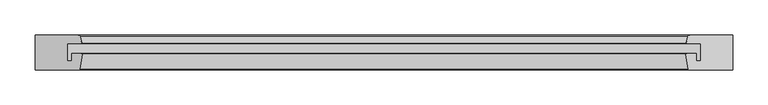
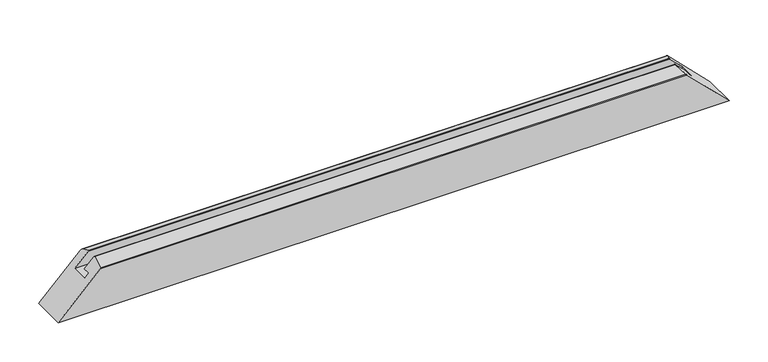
"""IFC4 building model written with IfcOpenShell, lengths in millimetres: proxy geometry, Weiku - Montante - Caixilho fixo 02.2.01.005 : Weiku - Montante - Caixilho fixo 02.2.01.005."""

from ifc_helpers import new_model, si_unit, frame, origin, place, context, project, spatial, ellipse_curve, source, transform, mapped, element, save
from ifc_brep_helpers import plane_surface, cylinder_surface, advanced_brep


def generic_models_721f8f45(model_context):
    return source(origin(), model_context, "Body", "AdvancedBrep", [
        advanced_brep(
        [(-430.618227, 38.5070552, 66.881773), (-433.1019557, 47.7764571, 64.3980443), (-435.9997332, 50.0, 61.5002668), (-497.5, 50.0, 0.0), (-497.5, 0.0, 0.0), (-435.0355572, 0.0, 62.4644428), (-434.0489094, 0.8371317, 63.4510906), (-430.4998537, 22.3371317, 67.0001463), (-431.4865015, 23.5, 66.0134985), (-445.5009154, 23.5, 51.9990846), (-445.5009154, 12.5, 51.9990846), (-451.5, 12.5, 46.0), (-451.5, 37.5, 46.0), (-431.3909676, 37.5, 66.1090324), (433.1019557, 47.7764571, 64.3980443), (430.618227, 38.5070552, 66.881773), (431.3909676, 37.5, 66.1090324), (451.5, 37.5, 46.0), (451.5, 12.5, 46.0), (445.5009154, 12.5, 51.9990846), (445.5009154, 23.5, 51.9990846), (431.4865015, 23.5, 66.0134985), (430.4998537, 22.3371317, 67.0001463), (434.0489094, 0.8371317, 63.4510906), (435.0355572, 0.0, 62.4644428), (497.5, 0.0, 0.0), (497.5, 50.0, 0.0), (435.9997332, 50.0, 61.5002668)],
        [
            (0, 1),
            (1, 2, ellipse_curve(frame((-435.9997332, 47.0, 61.5002668), z_axis=(-0.7071067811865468, 0.0, 0.7071067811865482), x_axis=(-0.7071067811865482, 0.0, -0.7071067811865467)), 4.2426407, 3.0)),
            (2, 3),
            (3, 4),
            (4, 5),
            (5, 6, ellipse_curve(frame((-435.0355572, 1.0, 62.4644428), z_axis=(-0.7071067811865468, 0.0, 0.7071067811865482), x_axis=(-0.7071067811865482, 0.0, -0.7071067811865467)), 1.4142136, 1.0)),
            (6, 7),
            (7, 8, ellipse_curve(frame((-431.4865015, 22.5, 66.0134985), z_axis=(-0.7071067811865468, 0.0, 0.7071067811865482), x_axis=(-0.7071067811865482, 0.0, -0.7071067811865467)), 1.4142136, 1.0)),
            (8, 9),
            (9, 10),
            (10, 11),
            (11, 12),
            (12, 13),
            (13, 0, ellipse_curve(frame((-431.3909676, 38.3, 66.1090324), z_axis=(-0.7071067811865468, 0.0, 0.7071067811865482), x_axis=(-0.7071067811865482, 0.0, -0.7071067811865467)), 1.1313708, 0.8)),
            (14, 15),
            (15, 16, ellipse_curve(frame((431.3909676, 38.3, 66.1090324), z_axis=(0.7071067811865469, 0.0, 0.7071067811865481), x_axis=(-0.7071067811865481, 0.0, 0.7071067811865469)), 1.1313708, 0.8)),
            (16, 17),
            (17, 18),
            (18, 19),
            (19, 20),
            (20, 21),
            (21, 22, ellipse_curve(frame((431.4865015, 22.5, 66.0134985), z_axis=(0.7071067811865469, 0.0, 0.7071067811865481), x_axis=(-0.7071067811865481, 0.0, 0.7071067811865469)), 1.4142136, 1.0)),
            (22, 23),
            (23, 24, ellipse_curve(frame((435.0355572, 1.0, 62.4644428), z_axis=(0.7071067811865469, 0.0, 0.7071067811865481), x_axis=(-0.7071067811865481, 0.0, 0.7071067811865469)), 1.4142136, 1.0)),
            (24, 25),
            (25, 26),
            (26, 27),
            (27, 14, ellipse_curve(frame((435.9997332, 47.0, 61.5002668), z_axis=(0.7071067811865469, 0.0, 0.7071067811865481), x_axis=(-0.7071067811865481, 0.0, 0.7071067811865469)), 4.2426407, 3.0)),
            (0, 15),
            (14, 1),
            (27, 2),
            (26, 3),
            (25, 4),
            (24, 5),
            (23, 6),
            (22, 7),
            (21, 8),
            (20, 9),
            (19, 10),
            (18, 11),
            (17, 12),
            (16, 13),
        ],
        [
            plane_surface(frame((-567.5, -15.0, -70.0), z_axis=(-0.7071067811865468, 0.0, 0.7071067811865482), x_axis=(0.0, 1.0, 0.0))),
            plane_surface(frame((427.5, -15.0, 70.0), z_axis=(0.7071067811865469, 0.0, 0.7071067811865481), x_axis=(0.0, 1.0, 0.0))),
            plane_surface(frame((-497.5, 38.5070552, 66.881773), z_axis=(0.0, 0.2588190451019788, 0.9659258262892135), x_axis=(1.0, 0.0, 0.0))),
            cylinder_surface(frame((-497.5, 47.0, 61.5002668), z_axis=(-1.0, 0.0, 0.0), x_axis=(0.0, -1.0, 0.0)), 3.0),
            plane_surface(frame((-497.5, 50.0, 61.5002668), z_axis=(0.0, 1.0, 0.0), x_axis=(1.0, 0.0, 0.0))),
            plane_surface(frame((-497.5, 50.0, 0.0), z_axis=(0.0, 0.0, -1.0), x_axis=(1.0, 0.0, 0.0))),
            plane_surface(frame((-497.5, 0.0, 0.0), z_axis=(0.0, -1.0, 0.0), x_axis=(1.0, 0.0, 0.0))),
            cylinder_surface(frame((-497.5, 1.0, 62.4644428), z_axis=(-1.0, 0.0, 0.0), x_axis=(0.0, 1.0, 0.0)), 1.0),
            plane_surface(frame((-497.5, 0.8371317, 63.4510906), z_axis=(0.0, -0.16286828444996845, 0.9866478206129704), x_axis=(1.0, 0.0, 0.0))),
            cylinder_surface(frame((-497.5, 22.5, 66.0134985), z_axis=(-1.0, 0.0, 0.0), x_axis=(0.0, 1.0, 0.0)), 1.0),
            plane_surface(frame((-497.5, 23.5, 66.0134985), z_axis=(0.0, 1.0, 0.0), x_axis=(1.0, 0.0, 0.0))),
            plane_surface(frame((-497.5, 23.5, 51.9990846), z_axis=(0.0, 0.0, -1.0), x_axis=(1.0, 0.0, 0.0))),
            plane_surface(frame((-497.5, 12.5, 51.9990846), z_axis=(0.0, 1.0, 0.0), x_axis=(1.0, 0.0, 0.0))),
            plane_surface(frame((-497.5, 12.5, 46.0), z_axis=(0.0, 0.0, 1.0), x_axis=(1.0, 0.0, 0.0))),
            plane_surface(frame((-497.5, 37.5, 46.0), z_axis=(0.0, -1.0, 0.0), x_axis=(1.0, 0.0, 0.0))),
            cylinder_surface(frame((-497.5, 38.3, 66.1090324), z_axis=(-1.0, 0.0, 0.0), x_axis=(0.0, -1.0, 0.0)), 0.8),
        ],
        [
            (0, [[1, 2, 3, 4, 5, 6, 7, 8, 9, 10, 11, 12, 13, 14]]),
            (1, [[15, 16, 17, 18, 19, 20, 21, 22, 23, 24, 25, 26, 27, 28]]),
            (2, [[-1, 29, -15, 30]]),
            (3, [[-2, -30, -28, 31]]),
            (4, [[32, -3, -31, -27]]),
            (5, [[-32, -26, 33, -4]]),
            (6, [[-33, -25, 34, -5]]),
            (7, [[-6, -34, -24, 35]]),
            (8, [[-7, -35, -23, 36]]),
            (9, [[-8, -36, -22, 37]]),
            (10, [[-9, -37, -21, 38]]),
            (11, [[-10, -38, -20, 39]]),
            (12, [[-11, -39, -19, 40]]),
            (13, [[-12, -40, -18, 41]]),
            (14, [[-13, -41, -17, 42]]),
            (15, [[-14, -42, -16, -29]]),
        ],
    ),
    ])


if __name__ == "__main__":
    model = new_model("IFC4")
    model_context = context("Model", 3, world=origin())
    ifc_project = project(units=[si_unit("LENGTHUNIT", "METRE", prefix="MILLI")], contexts=[model_context])
    site = spatial("IfcSite", under=ifc_project)
    building = spatial("IfcBuilding", under=site)
    placement = place(None, origin())
    generic_models_shape = generic_models_721f8f45(model_context)
    element("IfcBuildingElementProxy", 1, Name="Weiku - Montante - Caixilho fixo 02.2.01.005 : Weiku - Montante - Caixilho fixo 02.2.01.005", ObjectType="Weiku - Montante - Caixilho fixo 02.2.01.005 : Weiku - Montante - Caixilho fixo 02.2.01.005", at=placement, inside=building, context=model_context, shape_type="MappedRepresentation", body=[
        mapped(generic_models_shape, transform((0.0, 0.0, 0.0), x_axis=(1.0, 0.0, 0.0), y_axis=(0.0, 1.0, 0.0), z_axis=(0.0, 0.0, 1.0))),
    ])
    save(model, "model.ifc")
